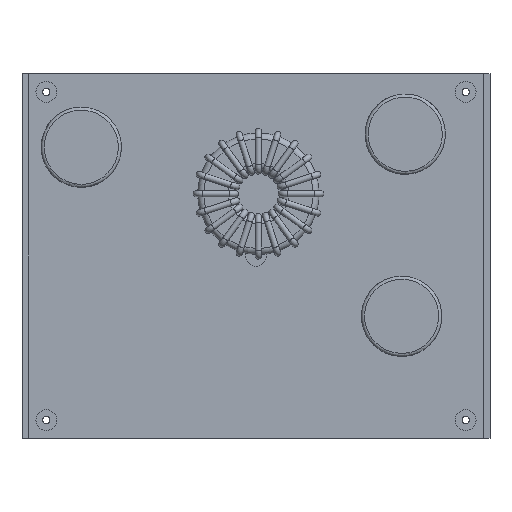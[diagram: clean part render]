
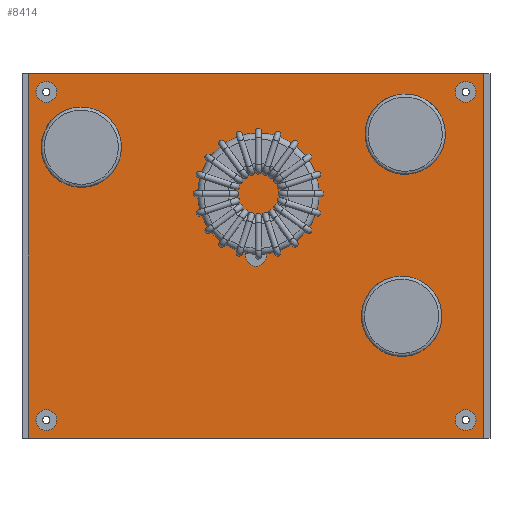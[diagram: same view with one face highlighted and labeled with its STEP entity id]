
A CAD part, front view. The second image highlights one B-rep face of the part: STEP entity #8414.
In plain terms, the highlighted planar face has unit normal (0, -1, 0) as drawn and (0, 0, 1) by its records, which use the part's own axes.
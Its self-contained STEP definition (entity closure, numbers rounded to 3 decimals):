
#162 = ORIENTED_EDGE ( 'NONE', *, *, #4774, .T. ) ;
#197 = ORIENTED_EDGE ( 'NONE', *, *, #1014, .F. ) ;
#465 = AXIS2_PLACEMENT_3D ( 'NONE', #6003, #544, #3357 ) ;
#496 = CARTESIAN_POINT ( 'NONE',  ( 34.5, -27., 1.5 ) ) ;
#497 = CARTESIAN_POINT ( 'NONE',  ( 37.5, 30., 1.5 ) ) ;
#544 = DIRECTION ( 'NONE',  ( 0., 0., 1. ) ) ;
#659 = VECTOR ( 'NONE', #4349, 1000. ) ;
#704 = VERTEX_POINT ( 'NONE', #1789 ) ;
#826 = VECTOR ( 'NONE', #5143, 1000. ) ;
#984 = CARTESIAN_POINT ( 'NONE',  ( -37.5, 30., 1.5 ) ) ;
#998 = CARTESIAN_POINT ( 'NONE',  ( -34.5, -27., 1.5 ) ) ;
#1014 = EDGE_CURVE ( 'NONE', #1787, #1787, #5420, .T. ) ;
#1559 = CARTESIAN_POINT ( 'NONE',  ( 0., 0., 1.5 ) ) ;
#1586 = AXIS2_PLACEMENT_3D ( 'NONE', #1559, #5730, #4282 ) ;
#1594 = EDGE_LOOP ( 'NONE', ( #3773, #1737, #2415, #162 ) ) ;
#1620 = DIRECTION ( 'NONE',  ( 0., 0., 1. ) ) ;
#1638 = CARTESIAN_POINT ( 'NONE',  ( -37.5, 30., 1.5 ) ) ;
#1655 = PLANE ( 'NONE',  #1586 ) ;
#1737 = ORIENTED_EDGE ( 'NONE', *, *, #8754, .T. ) ;
#1744 = FACE_BOUND ( 'NONE', #7851, .T. ) ;
#1754 = DIRECTION ( 'NONE',  ( 1., 0., 0. ) ) ;
#1787 = VERTEX_POINT ( 'NONE', #4566 ) ;
#1789 = CARTESIAN_POINT ( 'NONE',  ( 36.2, -27., 1.5 ) ) ;
#1921 = VECTOR ( 'NONE', #7051, 1000. ) ;
#2059 = DIRECTION ( 'NONE',  ( 1., 0., 0. ) ) ;
#2162 = EDGE_LOOP ( 'NONE', ( #197 ) ) ;
#2415 = ORIENTED_EDGE ( 'NONE', *, *, #6480, .T. ) ;
#2470 = CIRCLE ( 'NONE', #8599, 1.7 ) ;
#2927 = ORIENTED_EDGE ( 'NONE', *, *, #5383, .F. ) ;
#2935 = LINE ( 'NONE', #1638, #659 ) ;
#2959 = FACE_BOUND ( 'NONE', #5670, .T. ) ;
#3008 = FACE_BOUND ( 'NONE', #8534, .T. ) ;
#3176 = VERTEX_POINT ( 'NONE', #7236 ) ;
#3228 = DIRECTION ( 'NONE',  ( 1., 0., 0. ) ) ;
#3355 = CARTESIAN_POINT ( 'NONE',  ( -32.8, -27., 1.5 ) ) ;
#3357 = DIRECTION ( 'NONE',  ( 1., 0., 0. ) ) ;
#3405 = VERTEX_POINT ( 'NONE', #3355 ) ;
#3478 = ORIENTED_EDGE ( 'NONE', *, *, #4609, .F. ) ;
#3773 = ORIENTED_EDGE ( 'NONE', *, *, #5764, .T. ) ;
#3881 = CARTESIAN_POINT ( 'NONE',  ( 37.5, 30., 1.5 ) ) ;
#3903 = DIRECTION ( 'NONE',  ( 0., 0., 1. ) ) ;
#3912 = CARTESIAN_POINT ( 'NONE',  ( 37.5, -30., 1.5 ) ) ;
#3960 = VERTEX_POINT ( 'NONE', #984 ) ;
#4186 = AXIS2_PLACEMENT_3D ( 'NONE', #998, #1620, #4433 ) ;
#4282 = DIRECTION ( 'NONE',  ( -1., 0., 0. ) ) ;
#4304 = CIRCLE ( 'NONE', #465, 1.7 ) ;
#4311 = CARTESIAN_POINT ( 'NONE',  ( 37.5, 30., 1.5 ) ) ;
#4349 = DIRECTION ( 'NONE',  ( 0., -1., 0. ) ) ;
#4357 = CARTESIAN_POINT ( 'NONE',  ( 37.5, -30., 1.5 ) ) ;
#4433 = DIRECTION ( 'NONE',  ( 1., 0., 0. ) ) ;
#4566 = CARTESIAN_POINT ( 'NONE',  ( 36.2, 27., 1.5 ) ) ;
#4609 = EDGE_CURVE ( 'NONE', #3405, #3405, #7889, .T. ) ;
#4641 = CIRCLE ( 'NONE', #6504, 1.7 ) ;
#4693 = DIRECTION ( 'NONE',  ( 0., 0., 1. ) ) ;
#4774 = EDGE_CURVE ( 'NONE', #5371, #3960, #7798, .T. ) ;
#4864 = VERTEX_POINT ( 'NONE', #7273 ) ;
#4899 = EDGE_LOOP ( 'NONE', ( #5367 ) ) ;
#5143 = DIRECTION ( 'NONE',  ( 0., 1., 0. ) ) ;
#5367 = ORIENTED_EDGE ( 'NONE', *, *, #8245, .F. ) ;
#5371 = VERTEX_POINT ( 'NONE', #497 ) ;
#5383 = EDGE_CURVE ( 'NONE', #6135, #6135, #4641, .T. ) ;
#5420 = CIRCLE ( 'NONE', #8686, 1.7 ) ;
#5670 = EDGE_LOOP ( 'NONE', ( #3478 ) ) ;
#5730 = DIRECTION ( 'NONE',  ( 0., 0., -1. ) ) ;
#5764 = EDGE_CURVE ( 'NONE', #3960, #4864, #2935, .T. ) ;
#5970 = LINE ( 'NONE', #3912, #7241 ) ;
#6003 = CARTESIAN_POINT ( 'NONE',  ( 0., 0., 1.5 ) ) ;
#6135 = VERTEX_POINT ( 'NONE', #6802 ) ;
#6377 = VERTEX_POINT ( 'NONE', #4357 ) ;
#6480 = EDGE_CURVE ( 'NONE', #6377, #5371, #8514, .T. ) ;
#6504 = AXIS2_PLACEMENT_3D ( 'NONE', #7859, #7903, #1754 ) ;
#6535 = FACE_BOUND ( 'NONE', #2162, .T. ) ;
#6758 = CARTESIAN_POINT ( 'NONE',  ( 34.5, 27., 1.5 ) ) ;
#6802 = CARTESIAN_POINT ( 'NONE',  ( -32.8, 27., 1.5 ) ) ;
#7051 = DIRECTION ( 'NONE',  ( -1., 0., 0. ) ) ;
#7236 = CARTESIAN_POINT ( 'NONE',  ( 1.7, 0., 1.5 ) ) ;
#7241 = VECTOR ( 'NONE', #7998, 1000. ) ;
#7273 = CARTESIAN_POINT ( 'NONE',  ( -37.5, -30., 1.5 ) ) ;
#7762 = FACE_OUTER_BOUND ( 'NONE', #1594, .T. ) ;
#7798 = LINE ( 'NONE', #4311, #1921 ) ;
#7850 = FACE_BOUND ( 'NONE', #4899, .T. ) ;
#7851 = EDGE_LOOP ( 'NONE', ( #8229 ) ) ;
#7859 = CARTESIAN_POINT ( 'NONE',  ( -34.5, 27., 1.5 ) ) ;
#7889 = CIRCLE ( 'NONE', #4186, 1.7 ) ;
#7903 = DIRECTION ( 'NONE',  ( 0., 0., 1. ) ) ;
#7998 = DIRECTION ( 'NONE',  ( 1., 0., 0. ) ) ;
#8184 = EDGE_CURVE ( 'NONE', #3176, #3176, #4304, .T. ) ;
#8229 = ORIENTED_EDGE ( 'NONE', *, *, #8184, .F. ) ;
#8245 = EDGE_CURVE ( 'NONE', #704, #704, #2470, .T. ) ;
#8414 = ADVANCED_FACE ( 'NONE', ( #1744, #6535, #2959, #3008, #7850, #7762 ), #1655, .F. ) ;
#8514 = LINE ( 'NONE', #3881, #826 ) ;
#8534 = EDGE_LOOP ( 'NONE', ( #2927 ) ) ;
#8599 = AXIS2_PLACEMENT_3D ( 'NONE', #496, #3903, #3228 ) ;
#8686 = AXIS2_PLACEMENT_3D ( 'NONE', #6758, #4693, #2059 ) ;
#8754 = EDGE_CURVE ( 'NONE', #4864, #6377, #5970, .T. ) ;
